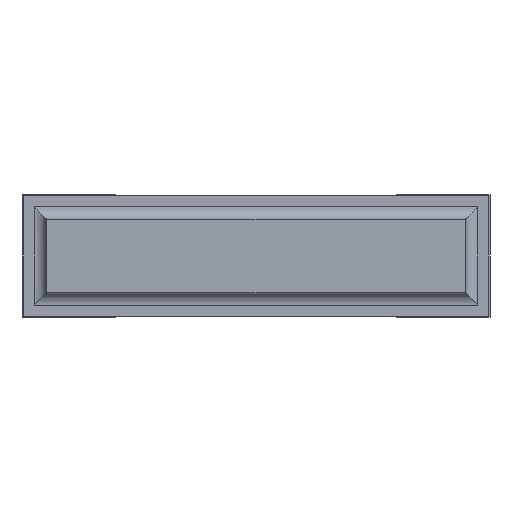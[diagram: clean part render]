
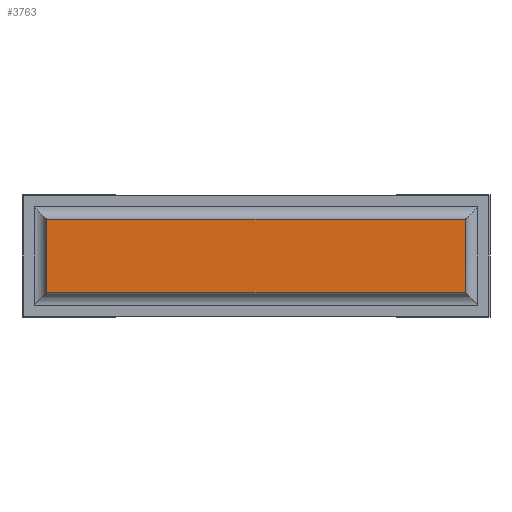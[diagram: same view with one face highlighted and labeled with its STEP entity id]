
A CAD part, front view. The second image highlights one B-rep face of the part: STEP entity #3763.
In plain terms, the highlighted planar face has unit normal (0, -1, 0).
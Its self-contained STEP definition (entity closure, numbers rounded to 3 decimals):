
#149=FACE_OUTER_BOUND('',#383,.T.);
#383=EDGE_LOOP('',(#2503,#2504,#2505,#2506));
#628=LINE('',#5373,#1120);
#632=LINE('',#5385,#1124);
#633=LINE('',#5387,#1125);
#634=LINE('',#5388,#1126);
#1120=VECTOR('',#4314,10.);
#1124=VECTOR('',#4326,10.);
#1125=VECTOR('',#4327,10.);
#1126=VECTOR('',#4328,10.);
#1611=VERTEX_POINT('',#5369);
#1613=VERTEX_POINT('',#5372);
#1617=VERTEX_POINT('',#5384);
#1618=VERTEX_POINT('',#5386);
#1956=EDGE_CURVE('',#1613,#1611,#628,.T.);
#1962=EDGE_CURVE('',#1617,#1613,#632,.T.);
#1963=EDGE_CURVE('',#1618,#1611,#633,.T.);
#1964=EDGE_CURVE('',#1617,#1618,#634,.T.);
#2503=ORIENTED_EDGE('',*,*,#1962,.T.);
#2504=ORIENTED_EDGE('',*,*,#1956,.T.);
#2505=ORIENTED_EDGE('',*,*,#1963,.F.);
#2506=ORIENTED_EDGE('',*,*,#1964,.F.);
#3576=PLANE('',#4031);
#3763=ADVANCED_FACE('',(#149),#3576,.T.);
#4031=AXIS2_PLACEMENT_3D('',#5383,#4324,#4325);
#4314=DIRECTION('',(0.,0.,-1.));
#4324=DIRECTION('center_axis',(0.,-1.,0.));
#4325=DIRECTION('ref_axis',(0.,0.,-1.));
#4326=DIRECTION('',(-1.,0.,0.));
#4327=DIRECTION('',(-1.,0.,0.));
#4328=DIRECTION('',(0.,0.,-1.));
#5369=CARTESIAN_POINT('',(0.1,0.,0.1));
#5372=CARTESIAN_POINT('',(0.1,0.,0.4));
#5373=CARTESIAN_POINT('',(0.1,0.,0.4));
#5383=CARTESIAN_POINT('Origin',(1.81,0.,0.25));
#5384=CARTESIAN_POINT('',(1.81,0.,0.4));
#5385=CARTESIAN_POINT('',(1.81,0.,0.4));
#5386=CARTESIAN_POINT('',(1.81,0.,0.1));
#5387=CARTESIAN_POINT('',(1.81,0.,0.1));
#5388=CARTESIAN_POINT('',(1.81,0.,0.4));
